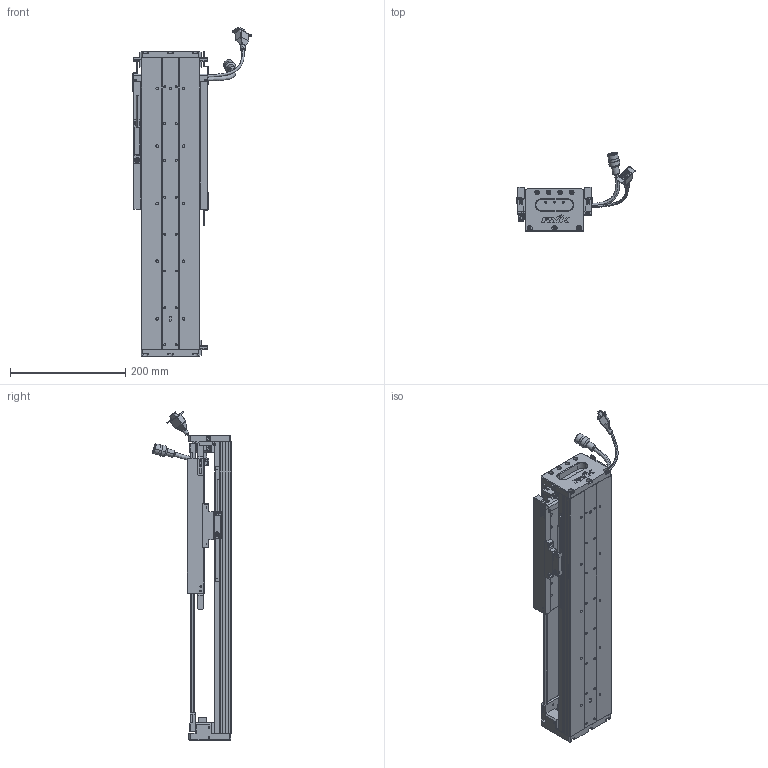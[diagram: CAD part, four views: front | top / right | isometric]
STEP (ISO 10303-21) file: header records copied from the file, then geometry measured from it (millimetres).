
FILE_DESCRIPTION (( 'STEP AP203' ), '1' );
FILE_NAME ('Z3-RY100D-1-L500-B-K.SLDASM_0200.step', '2021-05-17T02:49:23', ( '盈信电脑' ), ( '东莞市道滘镇水果街19号' ), 'SwSTEP 2.0', 'SolidWorks 2016', '' );
FILE_SCHEMA (( 'CONFIG_CONTROL_DESIGN' ));
Length unit declared in the file: millimetre
Products named in the file (36): SHIELDPLATE; LABEL-Part-1; SCREW-M1.7-1; LABEL; SCALE-Part-2; SCREW-M1.6-3; Z-100詩湍傷裔啣; PBU_SHEET; PSLH080_PSLF2; HARNESS-Part-1; Z-RY100D詩湍狟揤裔; HARNESS-Part-2; 140雄赽晤鎢ん堤盄; SCALE-Part-1; Z3-RY100-L500詩湍90mm遵_0200; HOLDER0; Z3-RY100D-500-倰第菁釱_0200; 覜茼ん672; COVER; SCREW-M1.6; SCREW-M1.6-1; Z3-RY100铝滑块（21款）; SEAL-Part-1; SCREW-M1.6-2; Z3-RY100D-1-L500-B-K.SLDASM_0200; SCALE; Z-RY100D覜茼んえ; SCREW-M1.7; 140蚥薯蝶輸; SEAL; 榋妏寠巭燃_暯_M2_2; HARNESS; 080黍杅芛假蚾釱21遴; COVER-Part-1; Z-RY100D詩湍奻揤裔; 100-Z-臏賑輸盄裔(21遴)
Assembly tree (43 placements, depth 4):
  Z3-RY100D-1-L500-B-K.SLDASM_0200
    Z3-RY100D-500-倰第菁釱_0200
    Z3-RY100铝滑块（21款）
    PSLH080_PSLF2
      SCALE
        SCALE-Part-1
        SCALE-Part-2
      HARNESS
        HARNESS-Part-1
        HARNESS-Part-2
      LABEL
        LABEL-Part-1
      COVER
        COVER-Part-1
      SEAL
        SEAL-Part-1
      榋妏寠巭燃_暯_M2_2
      SHIELDPLATE
      SCREW-M1.7
      SCREW-M1.7-1
      PBU_SHEET
      SCREW-M1.6
      SCREW-M1.6-1
      SCREW-M1.6-2
      SCREW-M1.6-3
      HOLDER0
    080黍杅芛假蚾釱21遴
    Z-100詩湍傷裔啣  x2
    140蚥薯蝶輸  x2
    覜茼ん672  x3
    Z-RY100D覜茼んえ  x3
    100-Z-臏賑輸盄裔(21遴)
    140雄赽晤鎢ん堤盄
    Z3-RY100-L500詩湍90mm遵_0200
    Z-RY100D詩湍狟揤裔  x2
    Z-RY100D詩湍奻揤裔  x2
Bounding box: 205.84 x 136.11 x 570.43 mm (x, y, z)
Volume: 1534737.9 mm3; surface area: 562044.5 mm2
Topology: 38 solids, 38 shells, 2441 faces, 6295 edges, 3964 vertices
Faces by surface type: plane 1099, cylinder 994, cone 226, torus 69, bspline 53
Entity records: 64433 total; most frequent: CARTESIAN_POINT 13617, DIRECTION 10113, ORIENTED_EDGE 9470, EDGE_CURVE 4735, AXIS2_PLACEMENT_3D 3676, VERTEX_POINT 3032, LINE 2761, VECTOR 2761
